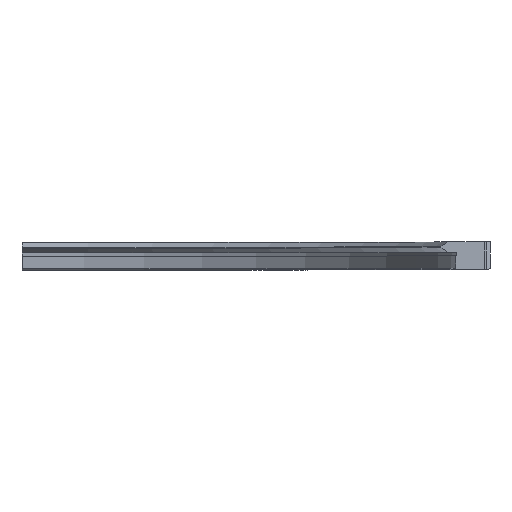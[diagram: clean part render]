
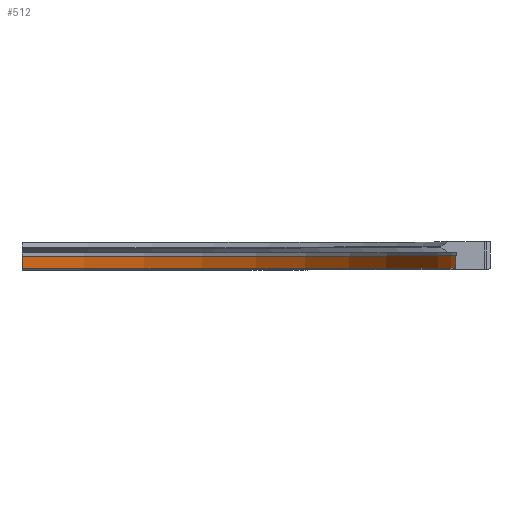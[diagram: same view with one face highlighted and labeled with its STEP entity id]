
A CAD part, top view. The second image highlights one B-rep face of the part: STEP entity #512.
In plain terms, the highlighted cylindrical face has radius 380 mm (diameter 760 mm), a partial arc.
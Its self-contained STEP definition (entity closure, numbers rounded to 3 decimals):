
#512 = ADVANCED_FACE( '', ( #1612 ), #1613, .F. );
#1612 = FACE_OUTER_BOUND( '', #2912, .T. );
#1613 = CYLINDRICAL_SURFACE( '', #2913, 380. );
#2912 = EDGE_LOOP( '', ( #7581, #7582, #7583, #7584 ) );
#2913 = AXIS2_PLACEMENT_3D( '', #7585, #7586, #7587 );
#7581 = ORIENTED_EDGE( '', *, *, #10767, .T. );
#7582 = ORIENTED_EDGE( '', *, *, #10070, .T. );
#7583 = ORIENTED_EDGE( '', *, *, #10768, .F. );
#7584 = ORIENTED_EDGE( '', *, *, #9005, .T. );
#7585 = CARTESIAN_POINT( '', ( 0., 0., 0. ) );
#7586 = DIRECTION( '', ( 0., 1., 0. ) );
#7587 = DIRECTION( '', ( 0., 0., -1. ) );
#9005 = EDGE_CURVE( '', #10900, #10898, #10901, .T. );
#10070 = EDGE_CURVE( '', #13015, #13013, #13016, .F. );
#10767 = EDGE_CURVE( '', #10898, #13015, #13907, .T. );
#10768 = EDGE_CURVE( '', #10900, #13013, #13908, .T. );
#10898 = VERTEX_POINT( '', #14056 );
#10900 = VERTEX_POINT( '', #14061 );
#10901 = LINE( '', #14062, #14063 );
#13013 = VERTEX_POINT( '', #17039 );
#13015 = VERTEX_POINT( '', #17042 );
#13016 = LINE( '', #17043, #17044 );
#13907 = CIRCLE( '', #19025, 380. );
#13908 = CIRCLE( '', #19026, 380. );
#14056 = CARTESIAN_POINT( '', ( 2., 1., -379.995 ) );
#14061 = CARTESIAN_POINT( '', ( 2., 12., -379.995 ) );
#14062 = CARTESIAN_POINT( '', ( 2., 0., -379.995 ) );
#14063 = VECTOR( '', #19141, 1000. );
#17039 = CARTESIAN_POINT( '', ( 379.995, 12., -2. ) );
#17042 = CARTESIAN_POINT( '', ( 379.995, 1., -2. ) );
#17043 = CARTESIAN_POINT( '', ( 379.995, 0., -2. ) );
#17044 = VECTOR( '', #20657, 1000. );
#19025 = AXIS2_PLACEMENT_3D( '', #21157, #21158, #21159 );
#19026 = AXIS2_PLACEMENT_3D( '', #21160, #21161, #21162 );
#19141 = DIRECTION( '', ( 0., -1., 0. ) );
#20657 = DIRECTION( '', ( 0., -1., 0. ) );
#21157 = CARTESIAN_POINT( '', ( 0., 1., 0. ) );
#21158 = DIRECTION( '', ( 0., -1., 0. ) );
#21159 = DIRECTION( '', ( 0., 0., -1. ) );
#21160 = CARTESIAN_POINT( '', ( 0., 12., 0. ) );
#21161 = DIRECTION( '', ( 0., -1., 0. ) );
#21162 = DIRECTION( '', ( 0., 0., -1. ) );
